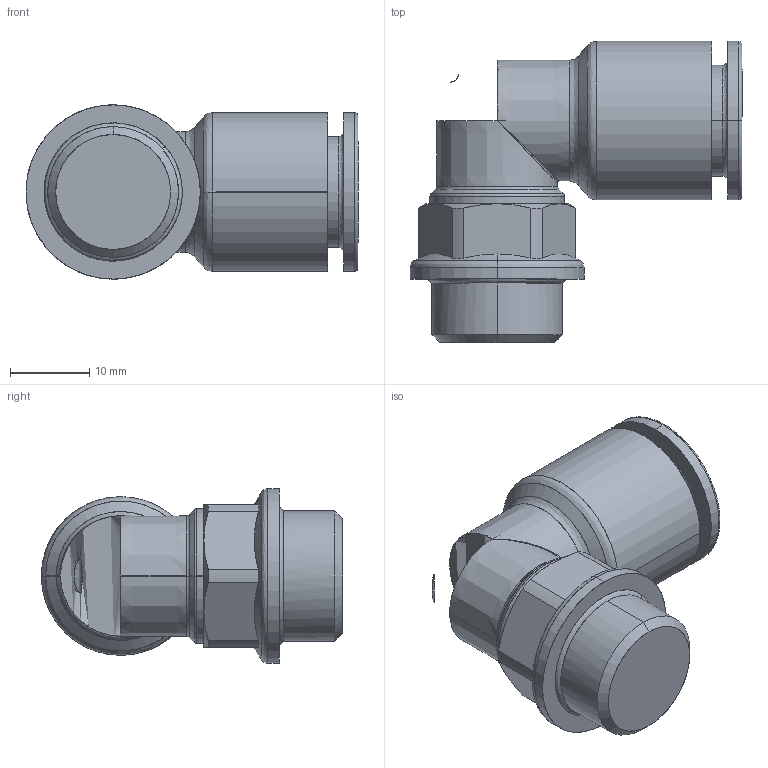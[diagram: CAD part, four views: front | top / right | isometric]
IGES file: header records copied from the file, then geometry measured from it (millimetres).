
Start section: SolidWorks IGES file using analytic representation for surfaces
Global section: file name: K:\Disegni Esecutivi\SERIE 54000\54000-Assiemi\54116\IGES\5411600025A.IGS; native system: SolidWorks 2020; preprocessor: SolidWorks 2020; author: CAD13; date: 240920.085006; units: millimetre
Bounding box: 41.9 x 38 x 22 mm (x, y, z)
Surface area: 5235.5 mm2 (no closed solid volume)
Topology: 0 solids, 0 shells, 170 faces, 1710 edges, 1708 vertices
Faces by surface type: bspline 126, revolution 44
